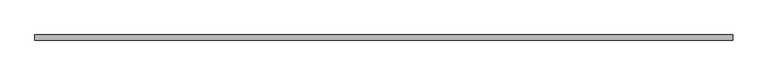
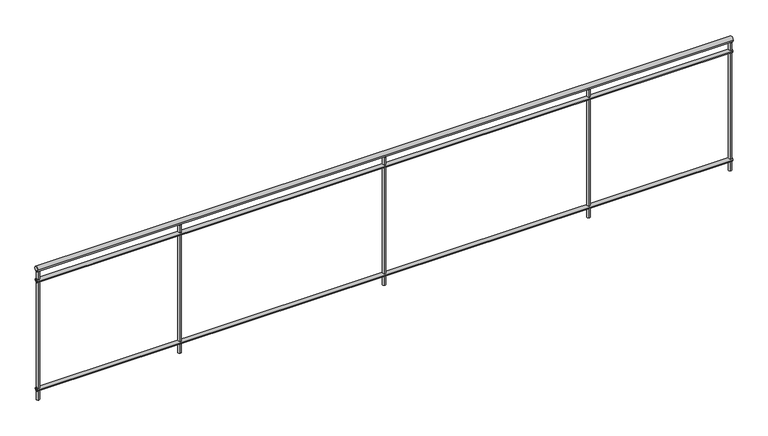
"""IFC4 building model written with IfcOpenShell, lengths in millimetres: railing geometry, バルコニー手摺."""

from ifc_helpers import new_model, si_unit, point, frame, frame_2d, origin, place, context, project, spatial, circle_curve, trimmed, segment, composite_curve, outline, extrude, source, transform, mapped, element, save


def railing_77e44f91(model_context):
    return source(origin(), model_context, "Body", "SweptSolid", [
        extrude(outline(composite_curve([segment(trimmed(circle_curve(frame_2d((10035.2598658, 10980.0)), 20.0), [point((10055.2598658, 10980.0))], [point((10015.2598658, 10980.0))], False, "CARTESIAN"), True, "CONTINUOUS"), segment(trimmed(circle_curve(frame_2d((10035.2598658, 10980.0)), 20.0), [point((10015.2598658, 10980.0))], [point((10055.2598658, 10980.0))], False, "CARTESIAN"), True, "CONTINUOUS")], self_intersect=False)), frame((3414.3805905, 0.0, 0.0), z_axis=(1.0, 0.0, 0.0), x_axis=(0.0, 1.0, 0.0)), (0.0, 0.0, 1.0), 5440.0),
        extrude(outline(composite_curve([segment(trimmed(circle_curve(frame_2d((10035.2598658, 10885.0)), 15.0), [point((10050.2598658, 10885.0))], [point((10020.2598658, 10885.0))], False, "CARTESIAN"), True, "CONTINUOUS"), segment(trimmed(circle_curve(frame_2d((10035.2598658, 10885.0)), 15.0), [point((10020.2598658, 10885.0))], [point((10050.2598658, 10885.0))], False, "CARTESIAN"), True, "CONTINUOUS")], self_intersect=False)), frame((3414.3805905, 0.0, 0.0), z_axis=(1.0, 0.0, 0.0), x_axis=(0.0, 1.0, 0.0)), (0.0, 0.0, 1.0), 5440.0),
        extrude(outline(composite_curve([segment(trimmed(circle_curve(frame_2d((10035.2598658, 9985.0)), 15.0), [point((10050.2598658, 9985.0))], [point((10020.2598658, 9985.0))], False, "CARTESIAN"), True, "CONTINUOUS"), segment(trimmed(circle_curve(frame_2d((10035.2598658, 9985.0)), 15.0), [point((10020.2598658, 9985.0))], [point((10050.2598658, 9985.0))], False, "CARTESIAN"), True, "CONTINUOUS")], self_intersect=False)), frame((3414.3805905, 0.0, 0.0), z_axis=(1.0, 0.0, 0.0), x_axis=(0.0, 1.0, 0.0)), (0.0, 0.0, 1.0), 5440.0),
        extrude(outline(composite_curve([segment(trimmed(circle_curve(frame_2d((7734.3805905, 10035.2598658)), 12.5), [point((7734.3805905, 10047.7598658))], [point((7734.3805905, 10022.7598658))], False, "CARTESIAN"), True, "CONTINUOUS"), segment(trimmed(circle_curve(frame_2d((7734.3805905, 10035.2598658)), 12.5), [point((7734.3805905, 10022.7598658))], [point((7734.3805905, 10047.7598658))], False, "CARTESIAN"), True, "CONTINUOUS")], self_intersect=False)), frame((0.0, 0.0, 9900.0), z_axis=(0.0, 0.0, 1.0), x_axis=(1.0, 0.0, 0.0)), (0.0, 0.0, 1.0), 1060.0),
        extrude(outline(composite_curve([segment(trimmed(circle_curve(frame_2d((6134.3805905, 10035.2598658)), 12.5), [point((6134.3805905, 10047.7598658))], [point((6134.3805905, 10022.7598658))], False, "CARTESIAN"), True, "CONTINUOUS"), segment(trimmed(circle_curve(frame_2d((6134.3805905, 10035.2598658)), 12.5), [point((6134.3805905, 10022.7598658))], [point((6134.3805905, 10047.7598658))], False, "CARTESIAN"), True, "CONTINUOUS")], self_intersect=False)), frame((0.0, 0.0, 9900.0), z_axis=(0.0, 0.0, 1.0), x_axis=(1.0, 0.0, 0.0)), (0.0, 0.0, 1.0), 1060.0),
        extrude(outline(composite_curve([segment(trimmed(circle_curve(frame_2d((4534.3805905, 10035.2598658)), 12.5), [point((4534.3805905, 10047.7598658))], [point((4534.3805905, 10022.7598658))], False, "CARTESIAN"), True, "CONTINUOUS"), segment(trimmed(circle_curve(frame_2d((4534.3805905, 10035.2598658)), 12.5), [point((4534.3805905, 10022.7598658))], [point((4534.3805905, 10047.7598658))], False, "CARTESIAN"), True, "CONTINUOUS")], self_intersect=False)), frame((0.0, 0.0, 9900.0), z_axis=(0.0, 0.0, 1.0), x_axis=(1.0, 0.0, 0.0)), (0.0, 0.0, 1.0), 1060.0),
        extrude(outline(composite_curve([segment(trimmed(circle_curve(frame_2d((8842.1805905, 10035.2598658)), 12.5), [point((8842.1805905, 10047.7598658))], [point((8842.1805905, 10022.7598658))], False, "CARTESIAN"), True, "CONTINUOUS"), segment(trimmed(circle_curve(frame_2d((8842.1805905, 10035.2598658)), 12.5), [point((8842.1805905, 10022.7598658))], [point((8842.1805905, 10047.7598658))], False, "CARTESIAN"), True, "CONTINUOUS")], self_intersect=False)), frame((0.0, 0.0, 9900.0), z_axis=(0.0, 0.0, 1.0), x_axis=(1.0, 0.0, 0.0)), (0.0, 0.0, 1.0), 1060.0),
        extrude(outline(composite_curve([segment(trimmed(circle_curve(frame_2d((3426.5805905, 10035.2598658)), 12.5), [point((3426.5805905, 10047.7598658))], [point((3426.5805905, 10022.7598658))], False, "CARTESIAN"), True, "CONTINUOUS"), segment(trimmed(circle_curve(frame_2d((3426.5805905, 10035.2598658)), 12.5), [point((3426.5805905, 10022.7598658))], [point((3426.5805905, 10047.7598658))], False, "CARTESIAN"), True, "CONTINUOUS")], self_intersect=False)), frame((0.0, 0.0, 9900.0), z_axis=(0.0, 0.0, 1.0), x_axis=(1.0, 0.0, 0.0)), (0.0, 0.0, 1.0), 1060.0),
    ])


if __name__ == "__main__":
    model = new_model("IFC4")
    model_context = context("Model", 3, world=origin())
    ifc_project = project(units=[si_unit("LENGTHUNIT", "METRE", prefix="MILLI")], contexts=[model_context])
    site = spatial("IfcSite", under=ifc_project)
    building = spatial("IfcBuilding", under=site)
    placement = place(None, origin())
    railing_shape = railing_77e44f91(model_context)
    element("IfcRailing", 1, ObjectType="バルコニー手摺", at=placement, inside=building, context=model_context, shape_type="MappedRepresentation", body=[
        mapped(railing_shape, transform((0.0, 0.0, 0.0), x_axis=(1.0, 0.0, 0.0), y_axis=(0.0, 1.0, 0.0), z_axis=(0.0, 0.0, 1.0))),
    ])
    save(model, "model.ifc")
